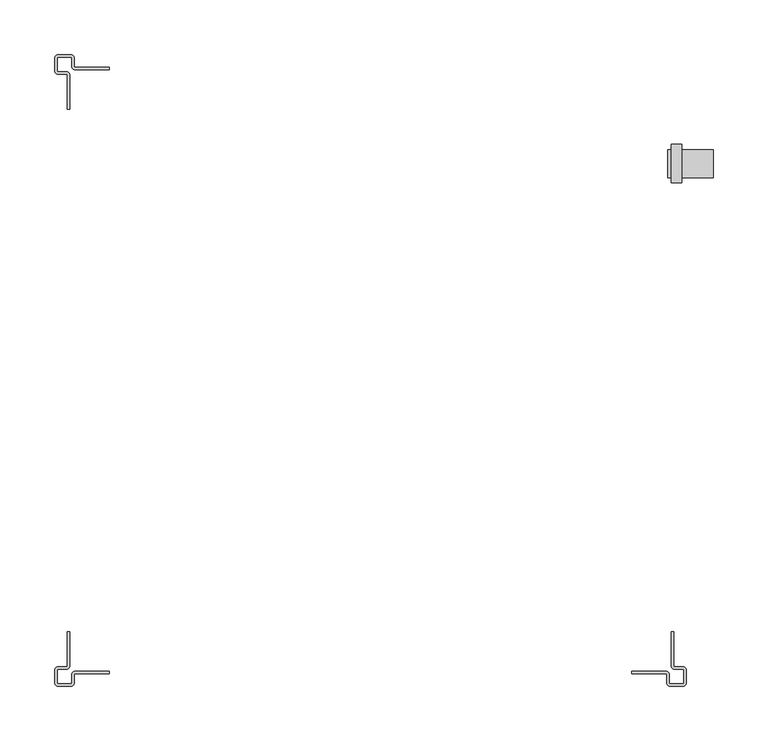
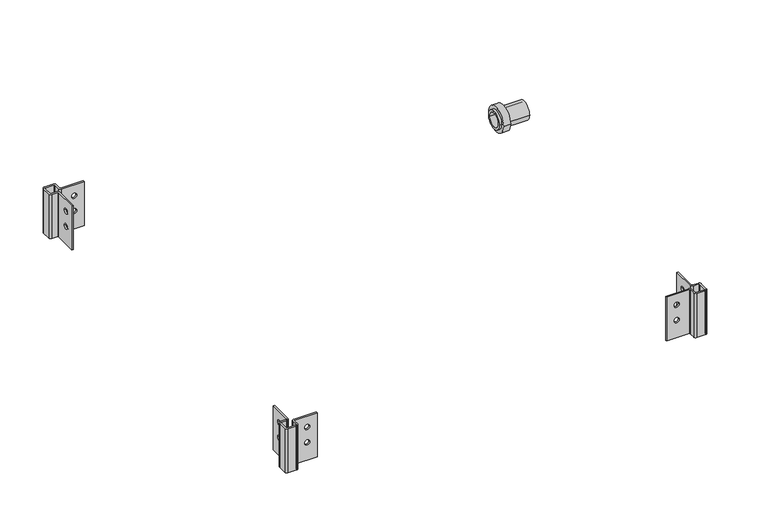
"""IFC4 building model written with IfcOpenShell, lengths in millimetres: proxy geometry, 40 SWHP-C : #40-SWHP-C."""

from ifc_helpers import new_model, si_unit, point, frame, frame_2d, origin, place, context, project, spatial, polyline, circle_curve, trimmed, segment, composite_curve, outline, extrude, source, transform, mapped, element, save
from ifc_brep_helpers import plane_surface, cylinder_surface, revolved_surface, advanced_brep


def generic_models_eae7145c(model_context):
    return source(origin(), model_context, "Body", "SolidModel", [
        advanced_brep(
        [(276.247225, -238.248825, 63.5), (274.240625, -238.248825, 63.5), (274.240625, -269.389225, 63.5), (277.009225, -272.157825, 63.5), (284.908625, -272.157825, 63.5), (285.670625, -272.919825, 63.5), (285.670625, -284.908625, 63.5), (284.908625, -285.670625, 63.5), (272.919825, -285.670625, 63.5), (272.157825, -284.908625, 63.5), (272.157825, -277.009225, 63.5), (269.389225, -274.240625, 63.5), (238.248825, -274.240625, 63.5), (238.248825, -276.247225, 63.5), (269.389225, -276.247225, 63.5), (270.151225, -277.009225, 63.5), (270.151225, -284.908625, 63.5), (272.919825, -287.677225, 63.5), (284.908625, -287.677225, 63.5), (287.677225, -284.908625, 63.5), (287.677225, -272.919825, 63.5), (284.908625, -270.151225, 63.5), (277.009225, -270.151225, 63.5), (276.247225, -269.389225, 63.5), (276.247225, -238.248825, 0.0), (276.247225, -269.389225, 0.0), (277.009225, -270.151225, 0.0), (284.908625, -270.151225, 0.0), (287.677225, -272.919825, 0.0), (287.677225, -284.908625, 0.0), (284.908625, -287.677225, 0.0), (272.919825, -287.677225, 0.0), (270.151225, -284.908625, 0.0), (270.151225, -277.009225, 0.0), (269.389225, -276.247225, 0.0), (238.248825, -276.247225, 0.0), (238.248825, -274.240625, 0.0), (269.389225, -274.240625, 0.0), (272.157825, -277.009225, 0.0), (272.157825, -284.908625, 0.0), (272.919825, -285.670625, 0.0), (284.908625, -285.670625, 0.0), (285.670625, -284.908625, 0.0), (285.670625, -272.919825, 0.0), (284.908625, -272.157825, 0.0), (277.009225, -272.157825, 0.0), (274.240625, -269.389225, 0.0), (274.240625, -238.248825, 0.0), (274.240625, -255.584325, 47.625), (274.240625, -248.446925, 47.625), (274.240625, -255.584325, 25.4), (274.240625, -248.446925, 25.4), (248.446925, -274.240625, 47.625), (255.584325, -274.240625, 47.625), (248.446925, -274.240625, 25.4), (255.584325, -274.240625, 25.4), (255.584325, -276.247225, 47.625), (248.446925, -276.247225, 47.625), (255.584325, -276.247225, 25.4), (248.446925, -276.247225, 25.4), (276.247225, -248.446925, 47.625), (276.247225, -255.584325, 47.625), (276.247225, -248.446925, 25.4), (276.247225, -255.584325, 25.4)],
        [
            (0, 1),
            (1, 2),
            (2, 3, circle_curve(frame((277.009225, -269.389225, 63.5), z_axis=(0.0, 0.0, 1.0), x_axis=(1.0, 0.0, 0.0)), 2.7686)),
            (3, 4),
            (4, 5, circle_curve(frame((284.908625, -272.919825, 63.5), z_axis=(0.0, 0.0, -1.0), x_axis=(1.0, 0.0, 0.0)), 0.762)),
            (5, 6),
            (6, 7, circle_curve(frame((284.908625, -284.908625, 63.5), z_axis=(0.0, 0.0, -1.0), x_axis=(1.0, 0.0, 0.0)), 0.762)),
            (7, 8),
            (8, 9, circle_curve(frame((272.919825, -284.908625, 63.5), z_axis=(0.0, 0.0, -1.0), x_axis=(1.0, 0.0, 0.0)), 0.762)),
            (9, 10),
            (10, 11, circle_curve(frame((269.389225, -277.009225, 63.5), z_axis=(0.0, 0.0, 1.0), x_axis=(1.0, 0.0, 0.0)), 2.7686)),
            (11, 12),
            (12, 13),
            (13, 14),
            (14, 15, circle_curve(frame((269.389225, -277.009225, 63.5), z_axis=(0.0, 0.0, -1.0), x_axis=(1.0, 0.0, 0.0)), 0.762)),
            (15, 16),
            (16, 17, circle_curve(frame((272.919825, -284.908625, 63.5), z_axis=(0.0, 0.0, 1.0), x_axis=(1.0, 0.0, 0.0)), 2.7686)),
            (17, 18),
            (18, 19, circle_curve(frame((284.908625, -284.908625, 63.5), z_axis=(0.0, 0.0, 1.0), x_axis=(1.0, 0.0, 0.0)), 2.7686)),
            (19, 20),
            (20, 21, circle_curve(frame((284.908625, -272.919825, 63.5), z_axis=(0.0, 0.0, 1.0), x_axis=(1.0, 0.0, 0.0)), 2.7686)),
            (21, 22),
            (22, 23, circle_curve(frame((277.009225, -269.389225, 63.5), z_axis=(0.0, 0.0, -1.0), x_axis=(1.0, 0.0, 0.0)), 0.762)),
            (23, 0),
            (24, 25),
            (25, 26, circle_curve(frame((277.009225, -269.389225, 0.0), z_axis=(0.0, 0.0, 1.0), x_axis=(1.0, 0.0, 0.0)), 0.762)),
            (26, 27),
            (27, 28, circle_curve(frame((284.908625, -272.919825, 0.0), z_axis=(0.0, 0.0, -1.0), x_axis=(1.0, 0.0, 0.0)), 2.7686)),
            (28, 29),
            (29, 30, circle_curve(frame((284.908625, -284.908625, 0.0), z_axis=(0.0, 0.0, -1.0), x_axis=(1.0, 0.0, 0.0)), 2.7686)),
            (30, 31),
            (31, 32, circle_curve(frame((272.919825, -284.908625, 0.0), z_axis=(0.0, 0.0, -1.0), x_axis=(1.0, 0.0, 0.0)), 2.7686)),
            (32, 33),
            (33, 34, circle_curve(frame((269.389225, -277.009225, 0.0), z_axis=(0.0, 0.0, 1.0), x_axis=(1.0, 0.0, 0.0)), 0.762)),
            (34, 35),
            (35, 36),
            (36, 37),
            (37, 38, circle_curve(frame((269.389225, -277.009225, 0.0), z_axis=(0.0, 0.0, -1.0), x_axis=(1.0, 0.0, 0.0)), 2.7686)),
            (38, 39),
            (39, 40, circle_curve(frame((272.919825, -284.908625, 0.0), z_axis=(0.0, 0.0, 1.0), x_axis=(1.0, 0.0, 0.0)), 0.762)),
            (40, 41),
            (41, 42, circle_curve(frame((284.908625, -284.908625, 0.0), z_axis=(0.0, 0.0, 1.0), x_axis=(1.0, 0.0, 0.0)), 0.762)),
            (42, 43),
            (43, 44, circle_curve(frame((284.908625, -272.919825, 0.0), z_axis=(0.0, 0.0, 1.0), x_axis=(1.0, 0.0, 0.0)), 0.762)),
            (44, 45),
            (45, 46, circle_curve(frame((277.009225, -269.389225, 0.0), z_axis=(0.0, 0.0, -1.0), x_axis=(1.0, 0.0, 0.0)), 2.7686)),
            (46, 47),
            (47, 24),
            (0, 24),
            (47, 1),
            (46, 2),
            (48, 49, circle_curve(frame((274.240625, -252.015625, 47.625), z_axis=(1.0, 0.0, 0.0), x_axis=(0.0, -1.0, 0.0)), 3.5687)),
            (49, 48, circle_curve(frame((274.240625, -252.015625, 47.625), z_axis=(1.0, 0.0, 0.0), x_axis=(0.0, -1.0, 0.0)), 3.5687)),
            (50, 51, circle_curve(frame((274.240625, -252.015625, 25.4), z_axis=(1.0, 0.0, 0.0), x_axis=(0.0, -1.0, 0.0)), 3.5687)),
            (51, 50, circle_curve(frame((274.240625, -252.015625, 25.4), z_axis=(1.0, 0.0, 0.0), x_axis=(0.0, -1.0, 0.0)), 3.5687)),
            (45, 3),
            (44, 4),
            (43, 5),
            (42, 6),
            (41, 7),
            (40, 8),
            (39, 9),
            (38, 10),
            (37, 11),
            (36, 12),
            (52, 53, circle_curve(frame((252.015625, -274.240625, 47.625), z_axis=(0.0, -1.0, 0.0), x_axis=(-1.0, 0.0, 0.0)), 3.5687)),
            (53, 52, circle_curve(frame((252.015625, -274.240625, 47.625), z_axis=(0.0, -1.0, 0.0), x_axis=(-1.0, 0.0, 0.0)), 3.5687)),
            (54, 55, circle_curve(frame((252.015625, -274.240625, 25.4), z_axis=(0.0, -1.0, 0.0), x_axis=(-1.0, 0.0, 0.0)), 3.5687)),
            (55, 54, circle_curve(frame((252.015625, -274.240625, 25.4), z_axis=(0.0, -1.0, 0.0), x_axis=(-1.0, 0.0, 0.0)), 3.5687)),
            (35, 13),
            (34, 14),
            (56, 57, circle_curve(frame((252.015625, -276.247225, 47.625), z_axis=(0.0, 1.0, 0.0), x_axis=(-1.0, 0.0, 0.0)), 3.5687)),
            (57, 56, circle_curve(frame((252.015625, -276.247225, 47.625), z_axis=(0.0, 1.0, 0.0), x_axis=(-1.0, 0.0, 0.0)), 3.5687)),
            (58, 59, circle_curve(frame((252.015625, -276.247225, 25.4), z_axis=(0.0, 1.0, 0.0), x_axis=(-1.0, 0.0, 0.0)), 3.5687)),
            (59, 58, circle_curve(frame((252.015625, -276.247225, 25.4), z_axis=(0.0, 1.0, 0.0), x_axis=(-1.0, 0.0, 0.0)), 3.5687)),
            (33, 15),
            (32, 16),
            (31, 17),
            (30, 18),
            (29, 19),
            (28, 20),
            (27, 21),
            (26, 22),
            (25, 23),
            (60, 61, circle_curve(frame((276.247225, -252.015625, 47.625), z_axis=(-1.0, 0.0, 0.0), x_axis=(0.0, -1.0, 0.0)), 3.5687)),
            (61, 60, circle_curve(frame((276.247225, -252.015625, 47.625), z_axis=(-1.0, 0.0, 0.0), x_axis=(0.0, -1.0, 0.0)), 3.5687)),
            (62, 63, circle_curve(frame((276.247225, -252.015625, 25.4), z_axis=(-1.0, 0.0, 0.0), x_axis=(0.0, -1.0, 0.0)), 3.5687)),
            (63, 62, circle_curve(frame((276.247225, -252.015625, 25.4), z_axis=(-1.0, 0.0, 0.0), x_axis=(0.0, -1.0, 0.0)), 3.5687)),
            (56, 53),
            (52, 57),
            (58, 55),
            (54, 59),
            (60, 49),
            (48, 61),
            (62, 51),
            (50, 63),
        ],
        [
            plane_surface(frame((274.240625, -238.248825, 63.5), z_axis=(0.0, 0.0, 1.0), x_axis=(-1.0, 0.0, 0.0))),
            plane_surface(frame((274.240625, -238.248825, 0.0), z_axis=(0.0, 0.0, -1.0), x_axis=(1.0, 0.0, 0.0))),
            plane_surface(frame((276.247225, -238.248825, 63.5), z_axis=(0.0, 1.0, 0.0), x_axis=(0.0, 0.0, -1.0))),
            plane_surface(frame((274.240625, -238.248825, 63.5), z_axis=(-1.0, 0.0, 0.0), x_axis=(0.0, 0.0, -1.0))),
            cylinder_surface(frame((277.009225, -269.389225, 0.0), z_axis=(0.0, 0.0, 1.0), x_axis=(1.0, 0.0, 0.0)), 2.7686),
            plane_surface(frame((277.009225, -272.157825, 63.5), z_axis=(0.0, -1.0, 0.0), x_axis=(0.0, 0.0, -1.0))),
            revolved_surface(polyline([(285.670625, -272.919825, 0.0), (285.670625, -272.919825, 63.5)]), (284.908625, -272.919825, 0.0), (0.0, 0.0, -1.0)),
            plane_surface(frame((285.670625, -272.919825, 63.5), z_axis=(-1.0, 0.0, 0.0), x_axis=(0.0, 0.0, -1.0))),
            revolved_surface(polyline([(285.670625, -284.908625, 0.0), (285.670625, -284.908625, 63.5)]), (284.908625, -284.908625, 0.0), (0.0, 0.0, -1.0)),
            plane_surface(frame((284.908625, -285.670625, 63.5), z_axis=(0.0, 1.0, 0.0), x_axis=(0.0, 0.0, -1.0))),
            revolved_surface(polyline([(273.681825, -284.908625, 0.0), (273.681825, -284.908625, 63.5)]), (272.919825, -284.908625, 0.0), (0.0, 0.0, -1.0)),
            plane_surface(frame((272.157825, -284.908625, 63.5), z_axis=(1.0, 0.0, 0.0), x_axis=(0.0, 0.0, -1.0))),
            cylinder_surface(frame((269.389225, -277.009225, 0.0), z_axis=(0.0, 0.0, 1.0), x_axis=(1.0, 0.0, 0.0)), 2.7686),
            plane_surface(frame((269.389225, -274.240625, 63.5), z_axis=(0.0, 1.0, 0.0), x_axis=(0.0, 0.0, -1.0))),
            plane_surface(frame((238.248825, -274.240625, 63.5), z_axis=(-1.0, 0.0, 0.0), x_axis=(0.0, 0.0, -1.0))),
            plane_surface(frame((238.248825, -276.247225, 63.5), z_axis=(0.0, -1.0, 0.0), x_axis=(0.0, 0.0, -1.0))),
            revolved_surface(polyline([(270.151225, -277.009225, 0.0), (270.151225, -277.009225, 63.5)]), (269.389225, -277.009225, 0.0), (0.0, 0.0, -1.0)),
            plane_surface(frame((270.151225, -277.009225, 63.5), z_axis=(-1.0, 0.0, 0.0), x_axis=(0.0, 0.0, -1.0))),
            cylinder_surface(frame((272.919825, -284.908625, 0.0), z_axis=(0.0, 0.0, 1.0), x_axis=(1.0, 0.0, 0.0)), 2.7686),
            plane_surface(frame((272.919825, -287.677225, 63.5), z_axis=(0.0, -1.0, 0.0), x_axis=(0.0, 0.0, -1.0))),
            cylinder_surface(frame((284.908625, -284.908625, 0.0), z_axis=(0.0, 0.0, 1.0), x_axis=(1.0, 0.0, 0.0)), 2.7686),
            plane_surface(frame((287.677225, -284.908625, 63.5), z_axis=(1.0, 0.0, 0.0), x_axis=(0.0, 0.0, -1.0))),
            cylinder_surface(frame((284.908625, -272.919825, 0.0), z_axis=(0.0, 0.0, 1.0), x_axis=(1.0, 0.0, 0.0)), 2.7686),
            plane_surface(frame((284.908625, -270.151225, 63.5), z_axis=(0.0, 1.0, 0.0), x_axis=(0.0, 0.0, -1.0))),
            revolved_surface(polyline([(277.771225, -269.389225, 0.0), (277.771225, -269.389225, 63.5)]), (277.009225, -269.389225, 0.0), (0.0, 0.0, -1.0)),
            plane_surface(frame((276.247225, -269.389225, 63.5), z_axis=(1.0, 0.0, 0.0), x_axis=(0.0, 0.0, -1.0))),
            revolved_surface(polyline([(248.446925, -274.240625, 47.625), (248.446925, -276.247225, 47.625)]), (252.015625, -278.914225, 47.625), (0.0, 1.0, 0.0)),
            revolved_surface(polyline([(248.446925, -274.240625, 25.4), (248.446925, -276.247225, 25.4)]), (252.015625, -278.914225, 25.4), (0.0, 1.0, 0.0)),
            revolved_surface(polyline([(274.240625, -255.584325, 47.625), (276.247225, -255.584325, 47.625)]), (278.914225, -252.015625, 47.625), (-1.0, 0.0, 0.0)),
            revolved_surface(polyline([(274.240625, -255.584325, 25.4), (276.247225, -255.584325, 25.4)]), (278.914225, -252.015625, 25.4), (-1.0, 0.0, 0.0)),
        ],
        [
            (0, [[1, 2, 3, 4, 5, 6, 7, 8, 9, 10, 11, 12, 13, 14, 15, 16, 17, 18, 19, 20, 21, 22, 23, 24]]),
            (1, [[25, 26, 27, 28, 29, 30, 31, 32, 33, 34, 35, 36, 37, 38, 39, 40, 41, 42, 43, 44, 45, 46, 47, 48]]),
            (2, [[-1, 49, -48, 50]]),
            (3, [[-2, -50, -47, 51], [52, 53], [54, 55]]),
            (4, [[-3, -51, -46, 56]]),
            (5, [[-4, -56, -45, 57]]),
            (6, [[-5, -57, -44, 58]]),
            (7, [[-6, -58, -43, 59]]),
            (8, [[-7, -59, -42, 60]]),
            (9, [[-8, -60, -41, 61]]),
            (10, [[-9, -61, -40, 62]]),
            (11, [[-10, -62, -39, 63]]),
            (12, [[-11, -63, -38, 64]]),
            (13, [[-12, -64, -37, 65], [66, 67], [68, 69]]),
            (14, [[-13, -65, -36, 70]]),
            (15, [[-14, -70, -35, 71], [72, 73], [74, 75]]),
            (16, [[-15, -71, -34, 76]]),
            (17, [[-16, -76, -33, 77]]),
            (18, [[-17, -77, -32, 78]]),
            (19, [[-18, -78, -31, 79]]),
            (20, [[-19, -79, -30, 80]]),
            (21, [[-20, -80, -29, 81]]),
            (22, [[-21, -81, -28, 82]]),
            (23, [[-22, -82, -27, 83]]),
            (24, [[-23, -83, -26, 84]]),
            (25, [[-24, -84, -25, -49], [85, 86], [87, 88]]),
            (26, [[89, -66, 90, -72]]),
            (26, [[-89, -73, -90, -67]]),
            (27, [[91, -68, 92, -74]]),
            (27, [[-91, -75, -92, -69]]),
            (28, [[93, -52, 94, -85]]),
            (28, [[-93, -86, -94, -53]]),
            (29, [[95, -54, 96, -87]]),
            (29, [[-95, -88, -96, -55]]),
        ],
    ),
        advanced_brep(
        [(-276.247225, -269.389225, 63.5), (-277.009225, -270.151225, 63.5), (-284.908625, -270.151225, 63.5), (-287.677225, -272.919825, 63.5), (-287.677225, -284.908625, 63.5), (-284.908625, -287.677225, 63.5), (-272.919825, -287.677225, 63.5), (-270.151225, -284.908625, 63.5), (-270.151225, -277.009225, 63.5), (-269.389225, -276.247225, 63.5), (-238.248825, -276.247225, 63.5), (-238.248825, -274.240625, 63.5), (-269.389225, -274.240625, 63.5), (-272.157825, -277.009225, 63.5), (-272.157825, -284.908625, 63.5), (-272.919825, -285.670625, 63.5), (-284.908625, -285.670625, 63.5), (-285.670625, -284.908625, 63.5), (-285.670625, -272.919825, 63.5), (-284.908625, -272.157825, 63.5), (-277.009225, -272.157825, 63.5), (-274.240625, -269.389225, 63.5), (-274.240625, -238.248825, 63.5), (-276.247225, -238.248825, 63.5), (-276.247225, -269.389225, 0.0), (-276.247225, -238.248825, 0.0), (-274.240625, -238.248825, 0.0), (-274.240625, -269.389225, 0.0), (-277.009225, -272.157825, 0.0), (-284.908625, -272.157825, 0.0), (-285.670625, -272.919825, 0.0), (-285.670625, -284.908625, 0.0), (-284.908625, -285.670625, 0.0), (-272.919825, -285.670625, 0.0), (-272.157825, -284.908625, 0.0), (-272.157825, -277.009225, 0.0), (-269.389225, -274.240625, 0.0), (-238.248825, -274.240625, 0.0), (-238.248825, -276.247225, 0.0), (-269.389225, -276.247225, 0.0), (-270.151225, -277.009225, 0.0), (-270.151225, -284.908625, 0.0), (-272.919825, -287.677225, 0.0), (-284.908625, -287.677225, 0.0), (-287.677225, -284.908625, 0.0), (-287.677225, -272.919825, 0.0), (-284.908625, -270.151225, 0.0), (-277.009225, -270.151225, 0.0), (-248.446925, -276.247225, 47.625), (-255.584325, -276.247225, 47.625), (-248.446925, -276.247225, 25.4), (-255.584325, -276.247225, 25.4), (-255.584325, -274.240625, 47.625), (-248.446925, -274.240625, 47.625), (-255.584325, -274.240625, 25.4), (-248.446925, -274.240625, 25.4), (-274.240625, -248.446925, 47.625), (-274.240625, -255.584325, 47.625), (-274.240625, -248.446925, 25.4), (-274.240625, -255.584325, 25.4), (-276.247225, -255.584325, 47.625), (-276.247225, -248.446925, 47.625), (-276.247225, -255.584325, 25.4), (-276.247225, -248.446925, 25.4)],
        [
            (0, 1, circle_curve(frame((-277.009225, -269.389225, 63.5), z_axis=(0.0, 0.0, -1.0), x_axis=(1.0, 0.0, 0.0)), 0.762)),
            (1, 2),
            (2, 3, circle_curve(frame((-284.908625, -272.919825, 63.5), z_axis=(0.0, 0.0, 1.0), x_axis=(1.0, 0.0, 0.0)), 2.7686)),
            (3, 4),
            (4, 5, circle_curve(frame((-284.908625, -284.908625, 63.5), z_axis=(0.0, 0.0, 1.0), x_axis=(1.0, 0.0, 0.0)), 2.7686)),
            (5, 6),
            (6, 7, circle_curve(frame((-272.919825, -284.908625, 63.5), z_axis=(0.0, 0.0, 1.0), x_axis=(1.0, 0.0, 0.0)), 2.7686)),
            (7, 8),
            (8, 9, circle_curve(frame((-269.389225, -277.009225, 63.5), z_axis=(0.0, 0.0, -1.0), x_axis=(1.0, 0.0, 0.0)), 0.762)),
            (9, 10),
            (10, 11),
            (11, 12),
            (12, 13, circle_curve(frame((-269.389225, -277.009225, 63.5), z_axis=(0.0, 0.0, 1.0), x_axis=(1.0, 0.0, 0.0)), 2.7686)),
            (13, 14),
            (14, 15, circle_curve(frame((-272.919825, -284.908625, 63.5), z_axis=(0.0, 0.0, -1.0), x_axis=(1.0, 0.0, 0.0)), 0.762)),
            (15, 16),
            (16, 17, circle_curve(frame((-284.908625, -284.908625, 63.5), z_axis=(0.0, 0.0, -1.0), x_axis=(1.0, 0.0, 0.0)), 0.762)),
            (17, 18),
            (18, 19, circle_curve(frame((-284.908625, -272.919825, 63.5), z_axis=(0.0, 0.0, -1.0), x_axis=(1.0, 0.0, 0.0)), 0.762)),
            (19, 20),
            (20, 21, circle_curve(frame((-277.009225, -269.389225, 63.5), z_axis=(0.0, 0.0, 1.0), x_axis=(1.0, 0.0, 0.0)), 2.7686)),
            (21, 22),
            (22, 23),
            (23, 0),
            (24, 25),
            (25, 26),
            (26, 27),
            (27, 28, circle_curve(frame((-277.009225, -269.389225, 0.0), z_axis=(0.0, 0.0, -1.0), x_axis=(1.0, 0.0, 0.0)), 2.7686)),
            (28, 29),
            (29, 30, circle_curve(frame((-284.908625, -272.919825, 0.0), z_axis=(0.0, 0.0, 1.0), x_axis=(1.0, 0.0, 0.0)), 0.762)),
            (30, 31),
            (31, 32, circle_curve(frame((-284.908625, -284.908625, 0.0), z_axis=(0.0, 0.0, 1.0), x_axis=(1.0, 0.0, 0.0)), 0.762)),
            (32, 33),
            (33, 34, circle_curve(frame((-272.919825, -284.908625, 0.0), z_axis=(0.0, 0.0, 1.0), x_axis=(1.0, 0.0, 0.0)), 0.762)),
            (34, 35),
            (35, 36, circle_curve(frame((-269.389225, -277.009225, 0.0), z_axis=(0.0, 0.0, -1.0), x_axis=(1.0, 0.0, 0.0)), 2.7686)),
            (36, 37),
            (37, 38),
            (38, 39),
            (39, 40, circle_curve(frame((-269.389225, -277.009225, 0.0), z_axis=(0.0, 0.0, 1.0), x_axis=(1.0, 0.0, 0.0)), 0.762)),
            (40, 41),
            (41, 42, circle_curve(frame((-272.919825, -284.908625, 0.0), z_axis=(0.0, 0.0, -1.0), x_axis=(1.0, 0.0, 0.0)), 2.7686)),
            (42, 43),
            (43, 44, circle_curve(frame((-284.908625, -284.908625, 0.0), z_axis=(0.0, 0.0, -1.0), x_axis=(1.0, 0.0, 0.0)), 2.7686)),
            (44, 45),
            (45, 46, circle_curve(frame((-284.908625, -272.919825, 0.0), z_axis=(0.0, 0.0, -1.0), x_axis=(1.0, 0.0, 0.0)), 2.7686)),
            (46, 47),
            (47, 24, circle_curve(frame((-277.009225, -269.389225, 0.0), z_axis=(0.0, 0.0, 1.0), x_axis=(1.0, 0.0, 0.0)), 0.762)),
            (0, 24),
            (47, 1),
            (46, 2),
            (45, 3),
            (44, 4),
            (43, 5),
            (42, 6),
            (41, 7),
            (40, 8),
            (39, 9),
            (38, 10),
            (48, 49, circle_curve(frame((-252.015625, -276.247225, 47.625), z_axis=(0.0, 1.0, 0.0), x_axis=(-1.0, 0.0, 0.0)), 3.5687)),
            (49, 48, circle_curve(frame((-252.015625, -276.247225, 47.625), z_axis=(0.0, 1.0, 0.0), x_axis=(-1.0, 0.0, 0.0)), 3.5687)),
            (50, 51, circle_curve(frame((-252.015625, -276.247225, 25.4), z_axis=(0.0, 1.0, 0.0), x_axis=(-1.0, 0.0, 0.0)), 3.5687)),
            (51, 50, circle_curve(frame((-252.015625, -276.247225, 25.4), z_axis=(0.0, 1.0, 0.0), x_axis=(-1.0, 0.0, 0.0)), 3.5687)),
            (37, 11),
            (36, 12),
            (52, 53, circle_curve(frame((-252.015625, -274.240625, 47.625), z_axis=(0.0, -1.0, 0.0), x_axis=(-1.0, 0.0, 0.0)), 3.5687)),
            (53, 52, circle_curve(frame((-252.015625, -274.240625, 47.625), z_axis=(0.0, -1.0, 0.0), x_axis=(-1.0, 0.0, 0.0)), 3.5687)),
            (54, 55, circle_curve(frame((-252.015625, -274.240625, 25.4), z_axis=(0.0, -1.0, 0.0), x_axis=(-1.0, 0.0, 0.0)), 3.5687)),
            (55, 54, circle_curve(frame((-252.015625, -274.240625, 25.4), z_axis=(0.0, -1.0, 0.0), x_axis=(-1.0, 0.0, 0.0)), 3.5687)),
            (35, 13),
            (34, 14),
            (33, 15),
            (32, 16),
            (31, 17),
            (30, 18),
            (29, 19),
            (28, 20),
            (27, 21),
            (26, 22),
            (56, 57, circle_curve(frame((-274.240625, -252.015625, 47.625), z_axis=(-1.0, 0.0, 0.0), x_axis=(0.0, -1.0, 0.0)), 3.5687)),
            (57, 56, circle_curve(frame((-274.240625, -252.015625, 47.625), z_axis=(-1.0, 0.0, 0.0), x_axis=(0.0, -1.0, 0.0)), 3.5687)),
            (58, 59, circle_curve(frame((-274.240625, -252.015625, 25.4), z_axis=(-1.0, 0.0, 0.0), x_axis=(0.0, -1.0, 0.0)), 3.5687)),
            (59, 58, circle_curve(frame((-274.240625, -252.015625, 25.4), z_axis=(-1.0, 0.0, 0.0), x_axis=(0.0, -1.0, 0.0)), 3.5687)),
            (25, 23),
            (60, 61, circle_curve(frame((-276.247225, -252.015625, 47.625), z_axis=(1.0, 0.0, 0.0), x_axis=(0.0, -1.0, 0.0)), 3.5687)),
            (61, 60, circle_curve(frame((-276.247225, -252.015625, 47.625), z_axis=(1.0, 0.0, 0.0), x_axis=(0.0, -1.0, 0.0)), 3.5687)),
            (62, 63, circle_curve(frame((-276.247225, -252.015625, 25.4), z_axis=(1.0, 0.0, 0.0), x_axis=(0.0, -1.0, 0.0)), 3.5687)),
            (63, 62, circle_curve(frame((-276.247225, -252.015625, 25.4), z_axis=(1.0, 0.0, 0.0), x_axis=(0.0, -1.0, 0.0)), 3.5687)),
            (56, 61),
            (60, 57),
            (58, 63),
            (62, 59),
            (48, 53),
            (52, 49),
            (50, 55),
            (54, 51),
        ],
        [
            plane_surface(frame((-276.247225, -269.389225, 63.5), z_axis=(0.0, 0.0, 1.0), x_axis=(0.0, -1.0, 0.0))),
            plane_surface(frame((-276.247225, -269.389225, 0.0), z_axis=(0.0, 0.0, -1.0), x_axis=(0.0, 1.0, 0.0))),
            revolved_surface(polyline([(-276.247225, -269.389225, 0.0), (-276.247225, -269.389225, 63.5)]), (-277.009225, -269.389225, 0.0), (0.0, 0.0, -1.0)),
            plane_surface(frame((-277.009225, -270.151225, 63.5), z_axis=(0.0, 1.0, 0.0), x_axis=(0.0, 0.0, -1.0))),
            cylinder_surface(frame((-284.908625, -272.919825, 0.0), z_axis=(0.0, 0.0, 1.0), x_axis=(1.0, 0.0, 0.0)), 2.7686),
            plane_surface(frame((-287.677225, -272.919825, 63.5), z_axis=(-1.0, 0.0, 0.0), x_axis=(0.0, 0.0, -1.0))),
            cylinder_surface(frame((-284.908625, -284.908625, 0.0), z_axis=(0.0, 0.0, 1.0), x_axis=(1.0, 0.0, 0.0)), 2.7686),
            plane_surface(frame((-284.908625, -287.677225, 63.5), z_axis=(0.0, -1.0, 0.0), x_axis=(0.0, 0.0, -1.0))),
            cylinder_surface(frame((-272.919825, -284.908625, 0.0), z_axis=(0.0, 0.0, 1.0), x_axis=(1.0, 0.0, 0.0)), 2.7686),
            plane_surface(frame((-270.151225, -284.908625, 63.5), z_axis=(1.0, 0.0, 0.0), x_axis=(0.0, 0.0, -1.0))),
            revolved_surface(polyline([(-268.627225, -277.009225, 0.0), (-268.627225, -277.009225, 63.5)]), (-269.389225, -277.009225, 0.0), (0.0, 0.0, -1.0)),
            plane_surface(frame((-269.389225, -276.247225, 63.5), z_axis=(0.0, -1.0, 0.0), x_axis=(0.0, 0.0, -1.0))),
            plane_surface(frame((-238.248825, -276.247225, 63.5), z_axis=(1.0, 0.0, 0.0), x_axis=(0.0, 0.0, -1.0))),
            plane_surface(frame((-238.248825, -274.240625, 63.5), z_axis=(0.0, 1.0, 0.0), x_axis=(0.0, 0.0, -1.0))),
            cylinder_surface(frame((-269.389225, -277.009225, 0.0), z_axis=(0.0, 0.0, 1.0), x_axis=(1.0, 0.0, 0.0)), 2.7686),
            plane_surface(frame((-272.157825, -277.009225, 63.5), z_axis=(-1.0, 0.0, 0.0), x_axis=(0.0, 0.0, -1.0))),
            revolved_surface(polyline([(-272.157825, -284.908625, 0.0), (-272.157825, -284.908625, 63.5)]), (-272.919825, -284.908625, 0.0), (0.0, 0.0, -1.0)),
            plane_surface(frame((-272.919825, -285.670625, 63.5), z_axis=(0.0, 1.0, 0.0), x_axis=(0.0, 0.0, -1.0))),
            revolved_surface(polyline([(-284.146625, -284.908625, 0.0), (-284.146625, -284.908625, 63.5)]), (-284.908625, -284.908625, 0.0), (0.0, 0.0, -1.0)),
            plane_surface(frame((-285.670625, -284.908625, 63.5), z_axis=(1.0, 0.0, 0.0), x_axis=(0.0, 0.0, -1.0))),
            revolved_surface(polyline([(-284.146625, -272.919825, 0.0), (-284.146625, -272.919825, 63.5)]), (-284.908625, -272.919825, 0.0), (0.0, 0.0, -1.0)),
            plane_surface(frame((-284.908625, -272.157825, 63.5), z_axis=(0.0, -1.0, 0.0), x_axis=(0.0, 0.0, -1.0))),
            cylinder_surface(frame((-277.009225, -269.389225, 0.0), z_axis=(0.0, 0.0, 1.0), x_axis=(1.0, 0.0, 0.0)), 2.7686),
            plane_surface(frame((-274.240625, -269.389225, 63.5), z_axis=(1.0, 0.0, 0.0), x_axis=(0.0, 0.0, -1.0))),
            plane_surface(frame((-274.240625, -238.248825, 63.5), z_axis=(0.0, 1.0, 0.0), x_axis=(0.0, 0.0, -1.0))),
            plane_surface(frame((-276.247225, -238.248825, 63.5), z_axis=(-1.0, 0.0, 0.0), x_axis=(0.0, 0.0, -1.0))),
            revolved_surface(polyline([(-276.247225, -255.584325, 47.625), (-274.240625, -255.584325, 47.625)]), (-271.065625, -252.015625, 47.625), (-1.0, 0.0, 0.0)),
            revolved_surface(polyline([(-276.247225, -255.584325, 25.4), (-274.240625, -255.584325, 25.4)]), (-278.914225, -252.015625, 25.4), (-1.0, 0.0, 0.0)),
            revolved_surface(polyline([(-255.584325, -274.240625, 47.625), (-255.584325, -276.247225, 47.625)]), (-252.015625, -278.914225, 47.625), (0.0, 1.0, 0.0)),
            revolved_surface(polyline([(-255.584325, -274.240625, 25.4), (-255.584325, -276.247225, 25.4)]), (-252.015625, -278.914225, 25.4), (0.0, 1.0, 0.0)),
        ],
        [
            (0, [[1, 2, 3, 4, 5, 6, 7, 8, 9, 10, 11, 12, 13, 14, 15, 16, 17, 18, 19, 20, 21, 22, 23, 24]]),
            (1, [[25, 26, 27, 28, 29, 30, 31, 32, 33, 34, 35, 36, 37, 38, 39, 40, 41, 42, 43, 44, 45, 46, 47, 48]]),
            (2, [[-1, 49, -48, 50]]),
            (3, [[-2, -50, -47, 51]]),
            (4, [[-3, -51, -46, 52]]),
            (5, [[-4, -52, -45, 53]]),
            (6, [[-5, -53, -44, 54]]),
            (7, [[-6, -54, -43, 55]]),
            (8, [[-7, -55, -42, 56]]),
            (9, [[-8, -56, -41, 57]]),
            (10, [[-9, -57, -40, 58]]),
            (11, [[-10, -58, -39, 59], [60, 61], [62, 63]]),
            (12, [[-11, -59, -38, 64]]),
            (13, [[-12, -64, -37, 65], [66, 67], [68, 69]]),
            (14, [[-13, -65, -36, 70]]),
            (15, [[-14, -70, -35, 71]]),
            (16, [[-15, -71, -34, 72]]),
            (17, [[-16, -72, -33, 73]]),
            (18, [[-17, -73, -32, 74]]),
            (19, [[-18, -74, -31, 75]]),
            (20, [[-19, -75, -30, 76]]),
            (21, [[-20, -76, -29, 77]]),
            (22, [[-21, -77, -28, 78]]),
            (23, [[-22, -78, -27, 79], [80, 81], [82, 83]]),
            (24, [[-23, -79, -26, 84]]),
            (25, [[-24, -84, -25, -49], [85, 86], [87, 88]]),
            (26, [[89, -85, 90, -80]]),
            (26, [[-89, -81, -90, -86]]),
            (27, [[91, -87, 92, -82]]),
            (27, [[-91, -83, -92, -88]]),
            (28, [[93, -66, 94, -60]]),
            (28, [[-93, -61, -94, -67]]),
            (29, [[95, -68, 96, -62]]),
            (29, [[-95, -63, -96, -69]]),
        ],
    ),
        advanced_brep(
        [(-238.248825, 276.247225, 63.5), (-269.389225, 276.247225, 63.5), (-270.151225, 277.009225, 63.5), (-270.151225, 284.908625, 63.5), (-272.919825, 287.677225, 63.5), (-284.908625, 287.677225, 63.5), (-287.677225, 284.908625, 63.5), (-287.677225, 272.919825, 63.5), (-284.908625, 270.151225, 63.5), (-277.009225, 270.151225, 63.5), (-276.247225, 269.389225, 63.5), (-276.247225, 238.248825, 63.5), (-274.240625, 238.248825, 63.5), (-274.240625, 269.389225, 63.5), (-277.009225, 272.157825, 63.5), (-284.908625, 272.157825, 63.5), (-285.670625, 272.919825, 63.5), (-285.670625, 284.908625, 63.5), (-284.908625, 285.670625, 63.5), (-272.919825, 285.670625, 63.5), (-272.157825, 284.908625, 63.5), (-272.157825, 277.009225, 63.5), (-269.389225, 274.240625, 63.5), (-238.248825, 274.240625, 63.5), (-238.248825, 276.247225, 0.0), (-238.248825, 274.240625, 0.0), (-269.389225, 274.240625, 0.0), (-272.157825, 277.009225, 0.0), (-272.157825, 284.908625, 0.0), (-272.919825, 285.670625, 0.0), (-284.908625, 285.670625, 0.0), (-285.670625, 284.908625, 0.0), (-285.670625, 272.919825, 0.0), (-284.908625, 272.157825, 0.0), (-277.009225, 272.157825, 0.0), (-274.240625, 269.389225, 0.0), (-274.240625, 238.248825, 0.0), (-276.247225, 238.248825, 0.0), (-276.247225, 269.389225, 0.0), (-277.009225, 270.151225, 0.0), (-284.908625, 270.151225, 0.0), (-287.677225, 272.919825, 0.0), (-287.677225, 284.908625, 0.0), (-284.908625, 287.677225, 0.0), (-272.919825, 287.677225, 0.0), (-270.151225, 284.908625, 0.0), (-270.151225, 277.009225, 0.0), (-269.389225, 276.247225, 0.0), (-255.584325, 276.247225, 47.625), (-248.446925, 276.247225, 47.625), (-255.584325, 276.247225, 25.4), (-248.446925, 276.247225, 25.4), (-276.247225, 248.446925, 47.625), (-276.247225, 255.584325, 47.625), (-276.247225, 248.446925, 25.4), (-276.247225, 255.584325, 25.4), (-274.240625, 255.584325, 47.625), (-274.240625, 248.446925, 47.625), (-274.240625, 255.584325, 25.4), (-274.240625, 248.446925, 25.4), (-248.446925, 274.240625, 47.625), (-255.584325, 274.240625, 47.625), (-248.446925, 274.240625, 25.4), (-255.584325, 274.240625, 25.4)],
        [
            (0, 1),
            (1, 2, circle_curve(frame((-269.389225, 277.009225, 63.5), z_axis=(0.0, 0.0, -1.0), x_axis=(1.0, 0.0, 0.0)), 0.762)),
            (2, 3),
            (3, 4, circle_curve(frame((-272.919825, 284.908625, 63.5), z_axis=(0.0, 0.0, 1.0), x_axis=(1.0, 0.0, 0.0)), 2.7686)),
            (4, 5),
            (5, 6, circle_curve(frame((-284.908625, 284.908625, 63.5), z_axis=(0.0, 0.0, 1.0), x_axis=(1.0, 0.0, 0.0)), 2.7686)),
            (6, 7),
            (7, 8, circle_curve(frame((-284.908625, 272.919825, 63.5), z_axis=(0.0, 0.0, 1.0), x_axis=(1.0, 0.0, 0.0)), 2.7686)),
            (8, 9),
            (9, 10, circle_curve(frame((-277.009225, 269.389225, 63.5), z_axis=(0.0, 0.0, -1.0), x_axis=(1.0, 0.0, 0.0)), 0.762)),
            (10, 11),
            (11, 12),
            (12, 13),
            (13, 14, circle_curve(frame((-277.009225, 269.389225, 63.5), z_axis=(0.0, 0.0, 1.0), x_axis=(1.0, 0.0, 0.0)), 2.7686)),
            (14, 15),
            (15, 16, circle_curve(frame((-284.908625, 272.919825, 63.5), z_axis=(0.0, 0.0, -1.0), x_axis=(1.0, 0.0, 0.0)), 0.762)),
            (16, 17),
            (17, 18, circle_curve(frame((-284.908625, 284.908625, 63.5), z_axis=(0.0, 0.0, -1.0), x_axis=(1.0, 0.0, 0.0)), 0.762)),
            (18, 19),
            (19, 20, circle_curve(frame((-272.919825, 284.908625, 63.5), z_axis=(0.0, 0.0, -1.0), x_axis=(1.0, 0.0, 0.0)), 0.762)),
            (20, 21),
            (21, 22, circle_curve(frame((-269.389225, 277.009225, 63.5), z_axis=(0.0, 0.0, 1.0), x_axis=(1.0, 0.0, 0.0)), 2.7686)),
            (22, 23),
            (23, 0),
            (24, 25),
            (25, 26),
            (26, 27, circle_curve(frame((-269.389225, 277.009225, 0.0), z_axis=(0.0, 0.0, -1.0), x_axis=(1.0, 0.0, 0.0)), 2.7686)),
            (27, 28),
            (28, 29, circle_curve(frame((-272.919825, 284.908625, 0.0), z_axis=(0.0, 0.0, 1.0), x_axis=(1.0, 0.0, 0.0)), 0.762)),
            (29, 30),
            (30, 31, circle_curve(frame((-284.908625, 284.908625, 0.0), z_axis=(0.0, 0.0, 1.0), x_axis=(1.0, 0.0, 0.0)), 0.762)),
            (31, 32),
            (32, 33, circle_curve(frame((-284.908625, 272.919825, 0.0), z_axis=(0.0, 0.0, 1.0), x_axis=(1.0, 0.0, 0.0)), 0.762)),
            (33, 34),
            (34, 35, circle_curve(frame((-277.009225, 269.389225, 0.0), z_axis=(0.0, 0.0, -1.0), x_axis=(1.0, 0.0, 0.0)), 2.7686)),
            (35, 36),
            (36, 37),
            (37, 38),
            (38, 39, circle_curve(frame((-277.009225, 269.389225, 0.0), z_axis=(0.0, 0.0, 1.0), x_axis=(1.0, 0.0, 0.0)), 0.762)),
            (39, 40),
            (40, 41, circle_curve(frame((-284.908625, 272.919825, 0.0), z_axis=(0.0, 0.0, -1.0), x_axis=(1.0, 0.0, 0.0)), 2.7686)),
            (41, 42),
            (42, 43, circle_curve(frame((-284.908625, 284.908625, 0.0), z_axis=(0.0, 0.0, -1.0), x_axis=(1.0, 0.0, 0.0)), 2.7686)),
            (43, 44),
            (44, 45, circle_curve(frame((-272.919825, 284.908625, 0.0), z_axis=(0.0, 0.0, -1.0), x_axis=(1.0, 0.0, 0.0)), 2.7686)),
            (45, 46),
            (46, 47, circle_curve(frame((-269.389225, 277.009225, 0.0), z_axis=(0.0, 0.0, 1.0), x_axis=(1.0, 0.0, 0.0)), 0.762)),
            (47, 24),
            (0, 24),
            (47, 1),
            (48, 49, circle_curve(frame((-252.015625, 276.247225, 47.625), z_axis=(0.0, -1.0, 0.0), x_axis=(-1.0, 0.0, 0.0)), 3.5687)),
            (49, 48, circle_curve(frame((-252.015625, 276.247225, 47.625), z_axis=(0.0, -1.0, 0.0), x_axis=(-1.0, 0.0, 0.0)), 3.5687)),
            (50, 51, circle_curve(frame((-252.015625, 276.247225, 25.4), z_axis=(0.0, -1.0, 0.0), x_axis=(-1.0, 0.0, 0.0)), 3.5687)),
            (51, 50, circle_curve(frame((-252.015625, 276.247225, 25.4), z_axis=(0.0, -1.0, 0.0), x_axis=(-1.0, 0.0, 0.0)), 3.5687)),
            (46, 2),
            (45, 3),
            (44, 4),
            (43, 5),
            (42, 6),
            (41, 7),
            (40, 8),
            (39, 9),
            (38, 10),
            (37, 11),
            (52, 53, circle_curve(frame((-276.247225, 252.015625, 47.625), z_axis=(1.0, 0.0, 0.0), x_axis=(0.0, -1.0, 0.0)), 3.5687)),
            (53, 52, circle_curve(frame((-276.247225, 252.015625, 47.625), z_axis=(1.0, 0.0, 0.0), x_axis=(0.0, -1.0, 0.0)), 3.5687)),
            (54, 55, circle_curve(frame((-276.247225, 252.015625, 25.4), z_axis=(1.0, 0.0, 0.0), x_axis=(0.0, -1.0, 0.0)), 3.5687)),
            (55, 54, circle_curve(frame((-276.247225, 252.015625, 25.4), z_axis=(1.0, 0.0, 0.0), x_axis=(0.0, -1.0, 0.0)), 3.5687)),
            (36, 12),
            (35, 13),
            (56, 57, circle_curve(frame((-274.240625, 252.015625, 47.625), z_axis=(-1.0, 0.0, 0.0), x_axis=(0.0, -1.0, 0.0)), 3.5687)),
            (57, 56, circle_curve(frame((-274.240625, 252.015625, 47.625), z_axis=(-1.0, 0.0, 0.0), x_axis=(0.0, -1.0, 0.0)), 3.5687)),
            (58, 59, circle_curve(frame((-274.240625, 252.015625, 25.4), z_axis=(-1.0, 0.0, 0.0), x_axis=(0.0, -1.0, 0.0)), 3.5687)),
            (59, 58, circle_curve(frame((-274.240625, 252.015625, 25.4), z_axis=(-1.0, 0.0, 0.0), x_axis=(0.0, -1.0, 0.0)), 3.5687)),
            (34, 14),
            (33, 15),
            (32, 16),
            (31, 17),
            (30, 18),
            (29, 19),
            (28, 20),
            (27, 21),
            (26, 22),
            (25, 23),
            (60, 61, circle_curve(frame((-252.015625, 274.240625, 47.625), z_axis=(0.0, 1.0, 0.0), x_axis=(-1.0, 0.0, 0.0)), 3.5687)),
            (61, 60, circle_curve(frame((-252.015625, 274.240625, 47.625), z_axis=(0.0, 1.0, 0.0), x_axis=(-1.0, 0.0, 0.0)), 3.5687)),
            (62, 63, circle_curve(frame((-252.015625, 274.240625, 25.4), z_axis=(0.0, 1.0, 0.0), x_axis=(-1.0, 0.0, 0.0)), 3.5687)),
            (63, 62, circle_curve(frame((-252.015625, 274.240625, 25.4), z_axis=(0.0, 1.0, 0.0), x_axis=(-1.0, 0.0, 0.0)), 3.5687)),
            (56, 53),
            (52, 57),
            (58, 55),
            (54, 59),
            (60, 49),
            (48, 61),
            (62, 51),
            (50, 63),
        ],
        [
            plane_surface(frame((-269.389225, 276.247225, 63.5), z_axis=(0.0, 0.0, 1.0), x_axis=(-1.0, 0.0, 0.0))),
            plane_surface(frame((-269.389225, 276.247225, 0.0), z_axis=(0.0, 0.0, -1.0), x_axis=(1.0, 0.0, 0.0))),
            plane_surface(frame((-238.248825, 276.247225, 63.5), z_axis=(0.0, 1.0, 0.0), x_axis=(0.0, 0.0, -1.0))),
            revolved_surface(polyline([(-268.627225, 277.009225, 0.0), (-268.627225, 277.009225, 63.5)]), (-269.389225, 277.009225, 0.0), (0.0, 0.0, -1.0)),
            plane_surface(frame((-270.151225, 277.009225, 63.5), z_axis=(1.0, 0.0, 0.0), x_axis=(0.0, 0.0, -1.0))),
            cylinder_surface(frame((-272.919825, 284.908625, 0.0), z_axis=(0.0, 0.0, 1.0), x_axis=(1.0, 0.0, 0.0)), 2.7686),
            plane_surface(frame((-272.919825, 287.677225, 63.5), z_axis=(0.0, 1.0, 0.0), x_axis=(0.0, 0.0, -1.0))),
            cylinder_surface(frame((-284.908625, 284.908625, 0.0), z_axis=(0.0, 0.0, 1.0), x_axis=(1.0, 0.0, 0.0)), 2.7686),
            plane_surface(frame((-287.677225, 284.908625, 63.5), z_axis=(-1.0, 0.0, 0.0), x_axis=(0.0, 0.0, -1.0))),
            cylinder_surface(frame((-284.908625, 272.919825, 0.0), z_axis=(0.0, 0.0, 1.0), x_axis=(1.0, 0.0, 0.0)), 2.7686),
            plane_surface(frame((-284.908625, 270.151225, 63.5), z_axis=(0.0, -1.0, 0.0), x_axis=(0.0, 0.0, -1.0))),
            revolved_surface(polyline([(-276.247225, 269.389225, 0.0), (-276.247225, 269.389225, 63.5)]), (-277.009225, 269.389225, 0.0), (0.0, 0.0, -1.0)),
            plane_surface(frame((-276.247225, 269.389225, 63.5), z_axis=(-1.0, 0.0, 0.0), x_axis=(0.0, 0.0, -1.0))),
            plane_surface(frame((-276.247225, 238.248825, 63.5), z_axis=(0.0, -1.0, 0.0), x_axis=(0.0, 0.0, -1.0))),
            plane_surface(frame((-274.240625, 238.248825, 63.5), z_axis=(1.0, 0.0, 0.0), x_axis=(0.0, 0.0, -1.0))),
            cylinder_surface(frame((-277.009225, 269.389225, 0.0), z_axis=(0.0, 0.0, 1.0), x_axis=(1.0, 0.0, 0.0)), 2.7686),
            plane_surface(frame((-277.009225, 272.157825, 63.5), z_axis=(0.0, 1.0, 0.0), x_axis=(0.0, 0.0, -1.0))),
            revolved_surface(polyline([(-284.146625, 272.919825, 0.0), (-284.146625, 272.919825, 63.5)]), (-284.908625, 272.919825, 0.0), (0.0, 0.0, -1.0)),
            plane_surface(frame((-285.670625, 272.919825, 63.5), z_axis=(1.0, 0.0, 0.0), x_axis=(0.0, 0.0, -1.0))),
            revolved_surface(polyline([(-284.146625, 284.908625, 0.0), (-284.146625, 284.908625, 63.5)]), (-284.908625, 284.908625, 0.0), (0.0, 0.0, -1.0)),
            plane_surface(frame((-284.908625, 285.670625, 63.5), z_axis=(0.0, -1.0, 0.0), x_axis=(0.0, 0.0, -1.0))),
            revolved_surface(polyline([(-272.157825, 284.908625, 0.0), (-272.157825, 284.908625, 63.5)]), (-272.919825, 284.908625, 0.0), (0.0, 0.0, -1.0)),
            plane_surface(frame((-272.157825, 284.908625, 63.5), z_axis=(-1.0, 0.0, 0.0), x_axis=(0.0, 0.0, -1.0))),
            cylinder_surface(frame((-269.389225, 277.009225, 0.0), z_axis=(0.0, 0.0, 1.0), x_axis=(1.0, 0.0, 0.0)), 2.7686),
            plane_surface(frame((-269.389225, 274.240625, 63.5), z_axis=(0.0, -1.0, 0.0), x_axis=(0.0, 0.0, -1.0))),
            plane_surface(frame((-238.248825, 274.240625, 63.5), z_axis=(1.0, 0.0, 0.0), x_axis=(0.0, 0.0, -1.0))),
            revolved_surface(polyline([(-276.247225, 248.446925, 47.625), (-274.240625, 248.446925, 47.625)]), (-271.065625, 252.015625, 47.625), (-1.0, 0.0, 0.0)),
            revolved_surface(polyline([(-276.247225, 248.446925, 25.4), (-274.240625, 248.446925, 25.4)]), (-278.914225, 252.015625, 25.4), (-1.0, 0.0, 0.0)),
            revolved_surface(polyline([(-255.584325, 276.247225, 47.625), (-255.584325, 274.240625, 47.625)]), (-252.015625, 271.065625, 47.625), (0.0, 1.0, 0.0)),
            revolved_surface(polyline([(-255.584325, 276.247225, 25.4), (-255.584325, 274.240625, 25.4)]), (-252.015625, 278.914225, 25.4), (0.0, 1.0, 0.0)),
        ],
        [
            (0, [[1, 2, 3, 4, 5, 6, 7, 8, 9, 10, 11, 12, 13, 14, 15, 16, 17, 18, 19, 20, 21, 22, 23, 24]]),
            (1, [[25, 26, 27, 28, 29, 30, 31, 32, 33, 34, 35, 36, 37, 38, 39, 40, 41, 42, 43, 44, 45, 46, 47, 48]]),
            (2, [[-1, 49, -48, 50], [51, 52], [53, 54]]),
            (3, [[-2, -50, -47, 55]]),
            (4, [[-3, -55, -46, 56]]),
            (5, [[-4, -56, -45, 57]]),
            (6, [[-5, -57, -44, 58]]),
            (7, [[-6, -58, -43, 59]]),
            (8, [[-7, -59, -42, 60]]),
            (9, [[-8, -60, -41, 61]]),
            (10, [[-9, -61, -40, 62]]),
            (11, [[-10, -62, -39, 63]]),
            (12, [[-11, -63, -38, 64], [65, 66], [67, 68]]),
            (13, [[-12, -64, -37, 69]]),
            (14, [[-13, -69, -36, 70], [71, 72], [73, 74]]),
            (15, [[-14, -70, -35, 75]]),
            (16, [[-15, -75, -34, 76]]),
            (17, [[-16, -76, -33, 77]]),
            (18, [[-17, -77, -32, 78]]),
            (19, [[-18, -78, -31, 79]]),
            (20, [[-19, -79, -30, 80]]),
            (21, [[-20, -80, -29, 81]]),
            (22, [[-21, -81, -28, 82]]),
            (23, [[-22, -82, -27, 83]]),
            (24, [[-23, -83, -26, 84], [85, 86], [87, 88]]),
            (25, [[-24, -84, -25, -49]]),
            (26, [[89, -65, 90, -71]]),
            (26, [[-89, -72, -90, -66]]),
            (27, [[91, -67, 92, -73]]),
            (27, [[-91, -74, -92, -68]]),
            (28, [[93, -51, 94, -85]]),
            (28, [[-93, -86, -94, -52]]),
            (29, [[95, -53, 96, -87]]),
            (29, [[-95, -88, -96, -54]]),
        ],
    ),
        extrude(outline(composite_curve([segment(trimmed(circle_curve(frame_2d((188.515625, 25.9953125)), 17.4625), [point((171.053125, 25.9953125))], [point((205.978125, 25.9953125))], False, "CARTESIAN"), True, "CONTINUOUS"), segment(trimmed(circle_curve(frame_2d((188.515625, 25.9953125)), 17.4625), [point((205.978125, 25.9953125))], [point((171.053125, 25.9953125))], False, "CARTESIAN"), True, "CONTINUOUS")], self_intersect=False), holes=[composite_curve([segment(trimmed(circle_curve(frame_2d((188.515625, 25.9953125)), 12.7), [point((175.815625, 25.9953125))], [point((201.215625, 25.9953125))], True, "CARTESIAN"), True, "CONTINUOUS"), segment(trimmed(circle_curve(frame_2d((188.515625, 25.9953125)), 12.7), [point((201.215625, 25.9953125))], [point((175.815625, 25.9953125))], True, "CARTESIAN"), True, "CONTINUOUS")], self_intersect=False)]), frame((274.240625, 0.0, 0.0), z_axis=(1.0, 0.0, 0.0), x_axis=(0.0, 1.0, 0.0)), (0.0, 0.0, 1.0), 9.525),
        extrude(outline(composite_curve([segment(trimmed(circle_curve(frame_2d((188.515625, 25.9953125)), 12.7), [point((175.815625, 25.9953125))], [point((201.215625, 25.9953125))], False, "CARTESIAN"), True, "CONTINUOUS"), segment(trimmed(circle_curve(frame_2d((188.515625, 25.9953125)), 12.7), [point((201.215625, 25.9953125))], [point((175.815625, 25.9953125))], False, "CARTESIAN"), True, "CONTINUOUS")], self_intersect=False), holes=[composite_curve([segment(trimmed(circle_curve(frame_2d((188.515625, 25.9953125)), 9.525), [point((178.990625, 25.9953125))], [point((198.040625, 25.9953125))], True, "CARTESIAN"), True, "CONTINUOUS"), segment(trimmed(circle_curve(frame_2d((188.515625, 25.9953125)), 9.525), [point((198.040625, 25.9953125))], [point((178.990625, 25.9953125))], True, "CARTESIAN"), True, "CONTINUOUS")], self_intersect=False)]), frame((271.065625, 0.0, 0.0), z_axis=(1.0, 0.0, 0.0), x_axis=(0.0, 1.0, 0.0)), (0.0, 0.0, 1.0), 41.275),
    ])


if __name__ == "__main__":
    model = new_model("IFC4")
    model_context = context("Model", 3, world=origin())
    ifc_project = project(units=[si_unit("LENGTHUNIT", "METRE", prefix="MILLI")], contexts=[model_context])
    site = spatial("IfcSite", under=ifc_project)
    building = spatial("IfcBuilding", under=site)
    placement = place(None, origin())
    generic_models_shape = generic_models_eae7145c(model_context)
    element("IfcBuildingElementProxy", 1, Name="40 SWHP-C : #40-SWHP-C", ObjectType="40 SWHP-C : #40-SWHP-C", at=placement, inside=building, context=model_context, shape_type="MappedRepresentation", body=[
        mapped(generic_models_shape, transform((0.0, 0.0, 0.0), x_axis=(1.0, 0.0, 0.0), y_axis=(0.0, 1.0, 0.0), z_axis=(0.0, 0.0, 1.0))),
    ])
    save(model, "model.ifc")
